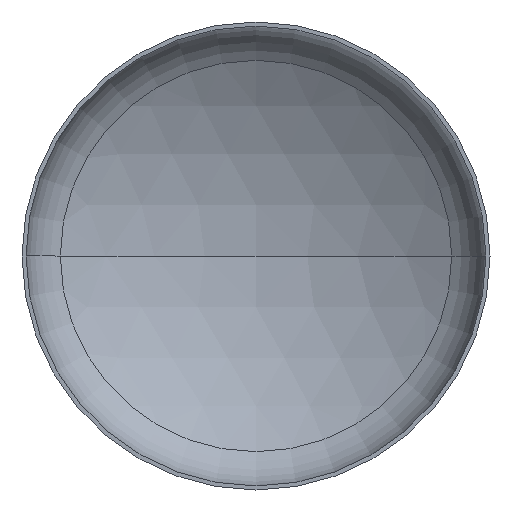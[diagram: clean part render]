
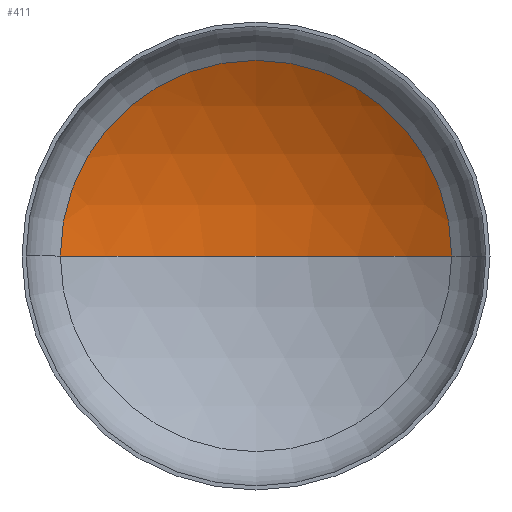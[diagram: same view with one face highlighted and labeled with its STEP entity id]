
A CAD part, front view. The second image highlights one B-rep face of the part: STEP entity #411.
In plain terms, the highlighted spherical face has radius 2560 mm.
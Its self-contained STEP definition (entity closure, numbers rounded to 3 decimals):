
#7 = AXIS2_PLACEMENT_3D ( 'NONE', #190, #193, #369 ) ;
#20 = EDGE_LOOP ( 'NONE', ( #89, #29, #131 ) ) ;
#23 = AXIS2_PLACEMENT_3D ( 'NONE', #233, #403, #358 ) ;
#29 = ORIENTED_EDGE ( 'NONE', *, *, #383, .T. ) ;
#32 = VERTEX_POINT ( 'NONE', #283 ) ;
#56 = VERTEX_POINT ( 'NONE', #281 ) ;
#89 = ORIENTED_EDGE ( 'NONE', *, *, #380, .F. ) ;
#131 = ORIENTED_EDGE ( 'NONE', *, *, #335, .T. ) ;
#133 = DIRECTION ( 'NONE',  ( 0., 0., -1. ) ) ;
#134 = DIRECTION ( 'NONE',  ( -1., 0., 0. ) ) ;
#144 = VERTEX_POINT ( 'NONE', #289 ) ;
#145 = AXIS2_PLACEMENT_3D ( 'NONE', #279, #133, #134 ) ;
#190 = CARTESIAN_POINT ( 'NONE',  ( 0., -1679.703, 0. ) ) ;
#193 = DIRECTION ( 'NONE',  ( 0., 0., 1. ) ) ;
#233 = CARTESIAN_POINT ( 'NONE',  ( 0., 502.732, 0. ) ) ;
#234 = DIRECTION ( 'NONE',  ( -1., 0., 0. ) ) ;
#238 = AXIS2_PLACEMENT_3D ( 'NONE', #260, #386, #234 ) ;
#242 = FACE_OUTER_BOUND ( 'NONE', #20, .T. ) ;
#250 = CIRCLE ( 'NONE', #7, 2560. ) ;
#260 = CARTESIAN_POINT ( 'NONE',  ( 0., -1679.703, 0. ) ) ;
#279 = CARTESIAN_POINT ( 'NONE',  ( 0., -1679.703, 0. ) ) ;
#281 = CARTESIAN_POINT ( 'NONE',  ( -1338.126, 502.732, 0. ) ) ;
#283 = CARTESIAN_POINT ( 'NONE',  ( 0., 880.297, 0. ) ) ;
#289 = CARTESIAN_POINT ( 'NONE',  ( 1338.126, 502.732, 0. ) ) ;
#309 = SPHERICAL_SURFACE ( 'NONE', #238, 2560. ) ;
#316 = CIRCLE ( 'NONE', #145, 2560. ) ;
#335 = EDGE_CURVE ( 'NONE', #144, #56, #338, .T. ) ;
#338 = CIRCLE ( 'NONE', #23, 1338.126 ) ;
#358 = DIRECTION ( 'NONE',  ( 1., 0., 0. ) ) ;
#369 = DIRECTION ( 'NONE',  ( 1., 0., 0. ) ) ;
#380 = EDGE_CURVE ( 'NONE', #32, #56, #250, .T. ) ;
#383 = EDGE_CURVE ( 'NONE', #32, #144, #316, .T. ) ;
#386 = DIRECTION ( 'NONE',  ( 0., 0., -1. ) ) ;
#403 = DIRECTION ( 'NONE',  ( 0., -1., 0. ) ) ;
#411 = ADVANCED_FACE ( 'NONE', ( #242 ), #309, .F. ) ;
